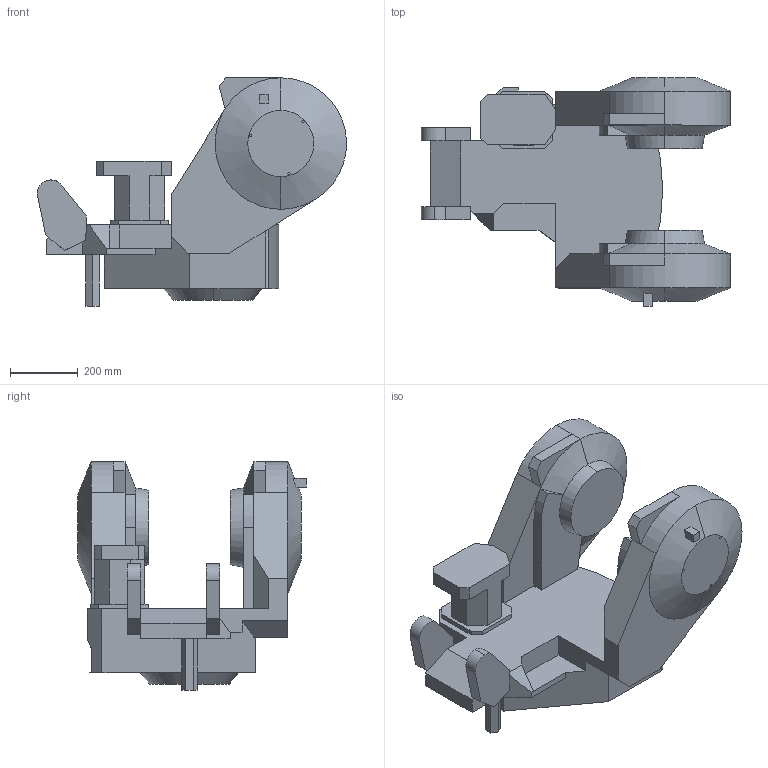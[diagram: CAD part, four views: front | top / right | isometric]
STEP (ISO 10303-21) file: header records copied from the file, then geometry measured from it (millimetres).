
FILE_DESCRIPTION (( 'STEP AP214' ), '1' );
FILE_NAME ('IRB4400_60_m2000_rev1_01-2.STEP', '2001-11-21T06:45:07', ( 'Jonas Eriksson' ), ( 'Evotech Engineering AB' ), 'SwSTEP 2.0', 'SolidWorks 2001287', '' );
FILE_SCHEMA (( 'AUTOMOTIVE_DESIGN' ));
Length unit declared in the file: millimetre
Products named in the file (1): IRB4400_60_m2000_rev1_01-2
Bounding box: 911.98 x 674 x 674 mm (x, y, z)
Volume: 97775124.5 mm3; surface area: 2173860.1 mm2
Topology: 1 solids, 1 shells, 187 faces, 499 edges, 321 vertices
Faces by surface type: plane 162, cone 16, cylinder 9
Entity records: 5736 total; most frequent: CARTESIAN_POINT 1030, ORIENTED_EDGE 998, DIRECTION 921, EDGE_CURVE 499, LINE 441, VECTOR 441, VERTEX_POINT 321, AXIS2_PLACEMENT_3D 240
